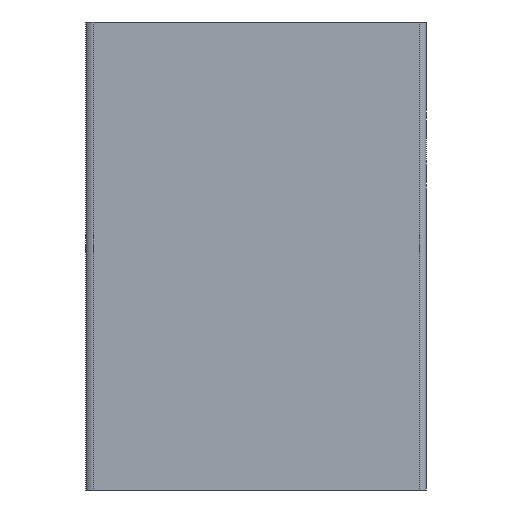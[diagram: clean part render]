
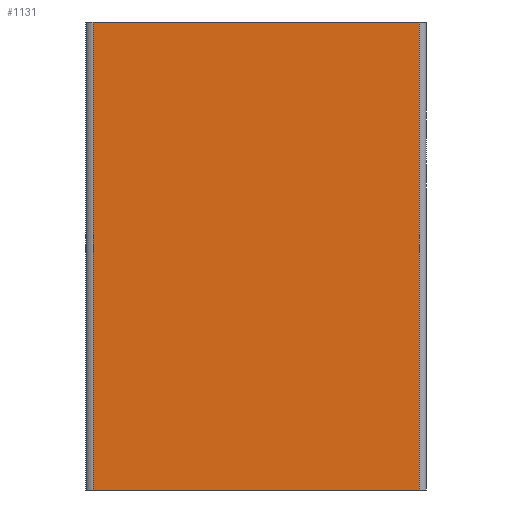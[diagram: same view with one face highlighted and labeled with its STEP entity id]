
A CAD part, left-side view. The second image highlights one B-rep face of the part: STEP entity #1131.
In plain terms, the highlighted planar face has unit normal (-1, 0, 0).
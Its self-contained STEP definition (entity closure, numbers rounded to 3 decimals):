
#101 = EDGE_CURVE ( 'NONE', #2375, #356, #1874, .T. ) ;
#205 = PLANE ( 'NONE',  #1355 ) ;
#221 = CARTESIAN_POINT ( 'NONE',  ( -32.5, 23.51, 33. ) ) ;
#230 = ORIENTED_EDGE ( 'NONE', *, *, #344, .T. ) ;
#344 = EDGE_CURVE ( 'NONE', #1924, #1423, #1715, .T. ) ;
#356 = VERTEX_POINT ( 'NONE', #1470 ) ;
#688 = DIRECTION ( 'NONE',  ( -1., 0., 0. ) ) ;
#889 = CARTESIAN_POINT ( 'NONE',  ( -32.5, 0.5, 0. ) ) ;
#901 = DIRECTION ( 'NONE',  ( 0., 0., 1. ) ) ;
#1005 = CARTESIAN_POINT ( 'NONE',  ( -32.5, 23.51, 0. ) ) ;
#1131 = ADVANCED_FACE ( 'NONE', ( #1842 ), #205, .T. ) ;
#1235 = DIRECTION ( 'NONE',  ( 0., 0., 1. ) ) ;
#1331 = CARTESIAN_POINT ( 'NONE',  ( -32.5, 23.51, 33. ) ) ;
#1346 = EDGE_CURVE ( 'NONE', #1924, #2375, #1698, .T. ) ;
#1355 = AXIS2_PLACEMENT_3D ( 'NONE', #889, #688, #901 ) ;
#1416 = VECTOR ( 'NONE', #1235, 1000. ) ;
#1423 = VERTEX_POINT ( 'NONE', #1540 ) ;
#1428 = DIRECTION ( 'NONE',  ( 0., 0., 1. ) ) ;
#1470 = CARTESIAN_POINT ( 'NONE',  ( -32.5, 0.5, 33. ) ) ;
#1494 = ORIENTED_EDGE ( 'NONE', *, *, #1346, .F. ) ;
#1540 = CARTESIAN_POINT ( 'NONE',  ( -32.5, 0.5, 0. ) ) ;
#1680 = LINE ( 'NONE', #1932, #1416 ) ;
#1698 = LINE ( 'NONE', #1005, #2494 ) ;
#1715 = LINE ( 'NONE', #2905, #2979 ) ;
#1842 = FACE_OUTER_BOUND ( 'NONE', #2713, .T. ) ;
#1874 = LINE ( 'NONE', #1331, #2625 ) ;
#1924 = VERTEX_POINT ( 'NONE', #2114 ) ;
#1932 = CARTESIAN_POINT ( 'NONE',  ( -32.5, 0.5, 0. ) ) ;
#1962 = DIRECTION ( 'NONE',  ( 0., -1., 0. ) ) ;
#2114 = CARTESIAN_POINT ( 'NONE',  ( -32.5, 23.51, 0. ) ) ;
#2375 = VERTEX_POINT ( 'NONE', #221 ) ;
#2405 = ORIENTED_EDGE ( 'NONE', *, *, #2959, .T. ) ;
#2494 = VECTOR ( 'NONE', #1428, 1000. ) ;
#2625 = VECTOR ( 'NONE', #2983, 1000. ) ;
#2713 = EDGE_LOOP ( 'NONE', ( #2405, #2753, #1494, #230 ) ) ;
#2753 = ORIENTED_EDGE ( 'NONE', *, *, #101, .F. ) ;
#2905 = CARTESIAN_POINT ( 'NONE',  ( -32.5, 23.51, 0. ) ) ;
#2959 = EDGE_CURVE ( 'NONE', #1423, #356, #1680, .T. ) ;
#2979 = VECTOR ( 'NONE', #1962, 1000. ) ;
#2983 = DIRECTION ( 'NONE',  ( 0., -1., 0. ) ) ;
